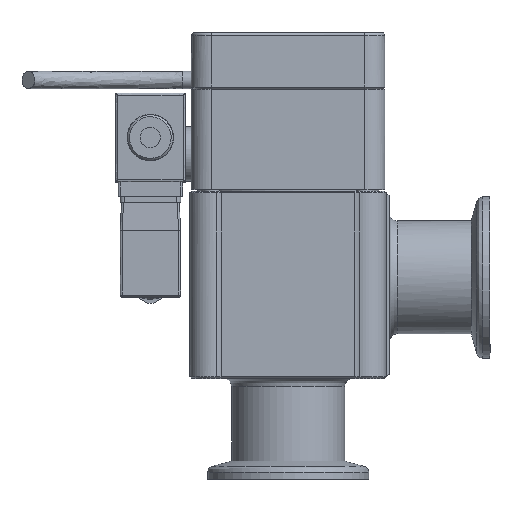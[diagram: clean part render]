
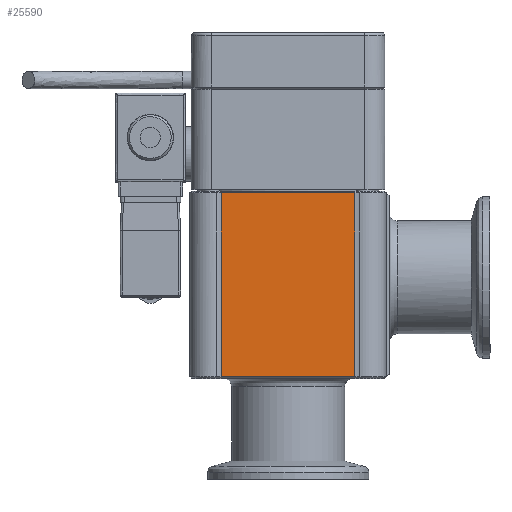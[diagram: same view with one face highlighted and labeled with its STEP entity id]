
A CAD part, top view. The second image highlights one B-rep face of the part: STEP entity #25590.
In plain terms, the highlighted free-form (B-spline) face has degree [1, 1] with [2, 2] control points.
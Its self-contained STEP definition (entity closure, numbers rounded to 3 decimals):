
#21760=CARTESIAN_POINT('V156',(-16.532,
   67.9,24.));
#21761=VERTEX_POINT('V156',#21760);
#21804=CARTESIAN_POINT('V154',(16.532,67.9,
   24.0));
#21805=VERTEX_POINT('V154',#21804);
#21811=CARTESIAN_POINT('E292',(16.532,67.9,
   24.));
#21812=CARTESIAN_POINT('E292',(-16.532,
   67.9,24.));
#21813=B_SPLINE_CURVE_WITH_KNOTS('E292',1,(#21811,#21812),
   .POLYLINE_FORM.,.F.,.U.,(2,2),(2.0,60.45),
   .UNSPECIFIED.);
#21814=EDGE_CURVE('E292',#21805,#21761,#21813,.T.);
#22048=CARTESIAN_POINT('V140',(16.532,22.4,
   24.0));
#22049=VERTEX_POINT('V140',#22048);
#22092=CARTESIAN_POINT('V138',(-16.532,
   22.4,24.));
#22093=VERTEX_POINT('V138',#22092);
#22099=CARTESIAN_POINT('E248',(-16.532,
   22.4,24.));
#22100=CARTESIAN_POINT('E248',(16.532,22.4,
   24.0));
#22101=B_SPLINE_CURVE_WITH_KNOTS('E248',1,(#22099,#22100),
   .POLYLINE_FORM.,.F.,.U.,(2,2),(2.0,60.45),
   .UNSPECIFIED.);
#22102=EDGE_CURVE('E248',#22093,#22049,#22101,.T.);
#22910=CARTESIAN_POINT('E187',(16.532,22.4,
   24.0));
#22911=CARTESIAN_POINT('E187',(16.532,67.9,
   24.0));
#22912=B_SPLINE_CURVE_WITH_KNOTS('E187',1,(#22910,#22911),
   .POLYLINE_FORM.,.F.,.U.,(2,2),(2.331,
   39.942),.UNSPECIFIED.);
#22913=EDGE_CURVE('E187',#22049,#21805,#22912,.T.);
#22933=CARTESIAN_POINT('E177',(-16.532,
   67.9,24.));
#22934=CARTESIAN_POINT('E177',(-16.532,
   22.4,24.));
#22935=B_SPLINE_CURVE_WITH_KNOTS('E177',1,(#22933,#22934),
   .POLYLINE_FORM.,.F.,.U.,(2,2),(2.331,
   39.942),.UNSPECIFIED.);
#22936=EDGE_CURVE('E177',#21761,#22093,#22935,.T.);
#25579=CARTESIAN_POINT('F36',(-17.242,21.,
   24.0));
#25580=CARTESIAN_POINT('F36',(17.242,21.,
   24.));
#25581=CARTESIAN_POINT('F36',(-17.242,71.8,
   24.));
#25582=CARTESIAN_POINT('F36',(17.242,71.8,
   24.));
#25583=B_SPLINE_SURFACE_WITH_KNOTS('F36',1,1,((#25579,#25581),(
   #25580,#25582)),.PLANE_SURF.,.F.,.F.,.U.,(2,2),(2,2),(0.0,1.0),
   (0.696,2.169),.UNSPECIFIED.);
#25584=ORIENTED_EDGE('E292',*,*,#21814,.F.);
#25585=ORIENTED_EDGE('F68',*,*,#22913,.F.);
#25586=ORIENTED_EDGE('E248',*,*,#22102,.F.);
#25587=ORIENTED_EDGE('E177',*,*,#22936,.F.);
#25588=EDGE_LOOP('F36',(#25584,#25585,#25586,#25587));
#25589=FACE_OUTER_BOUND('F36',#25588,.F.);
#25590=ADVANCED_FACE('F36',(#25589),#25583,.T.);
